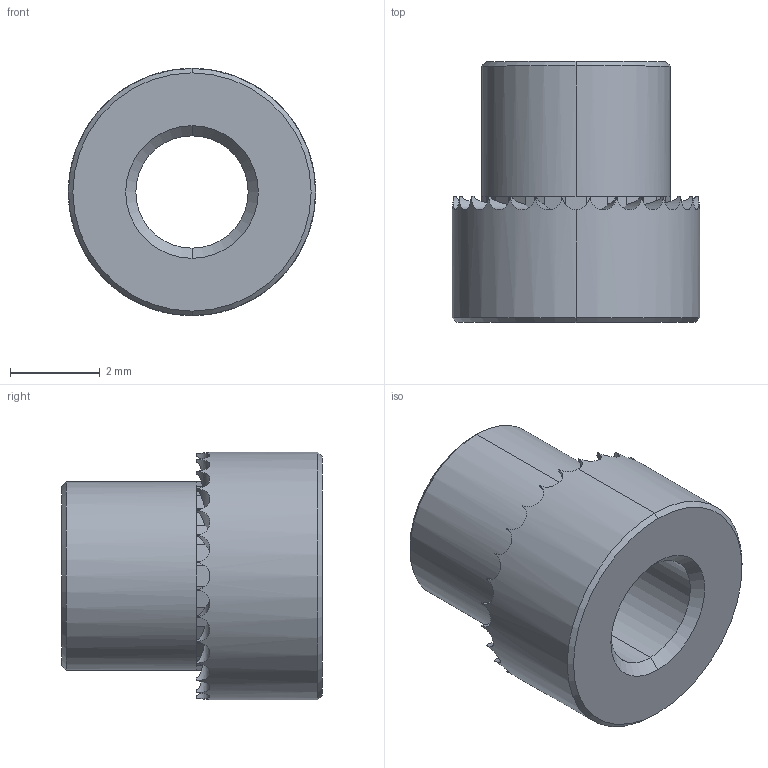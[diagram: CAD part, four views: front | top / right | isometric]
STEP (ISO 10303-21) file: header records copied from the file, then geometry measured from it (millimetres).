
FILE_DESCRIPTION (( 'STEP AP203' ), '1' );
FILE_NAME ('P0829.025-12G-ZP.step', '2019-03-21T22:11:55', ( '' ), ( '' ), 'SwSTEP 2.0', 'SolidWorks 2017', '' );
FILE_SCHEMA (( 'CONFIG_CONTROL_DESIGN' ));
Length unit declared in the file: millimetre
Products named in the file (1): P0829.025-12G-ZP
Bounding box: 5.5 x 5.8 x 5.5 mm (x, y, z)
Volume: 76.4 mm3; surface area: 169.9 mm2
Topology: 1 solids, 1 shells, 128 faces, 312 edges, 186 vertices
Faces by surface type: plane 86, cylinder 34, cone 8
Entity records: 3963 total; most frequent: CARTESIAN_POINT 965, ORIENTED_EDGE 624, DIRECTION 612, EDGE_CURVE 312, AXIS2_PLACEMENT_3D 229, VERTEX_POINT 186, LINE 154, VECTOR 154
